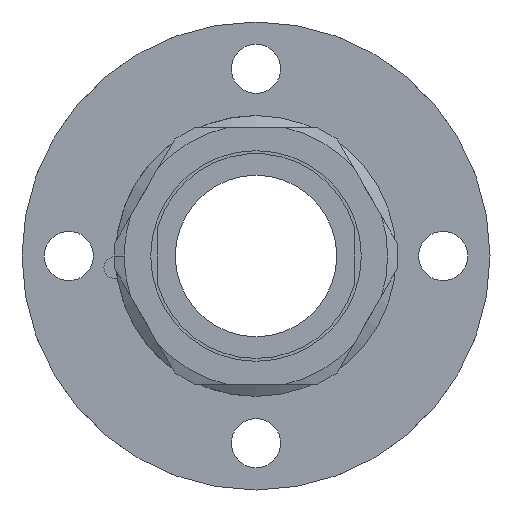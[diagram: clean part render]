
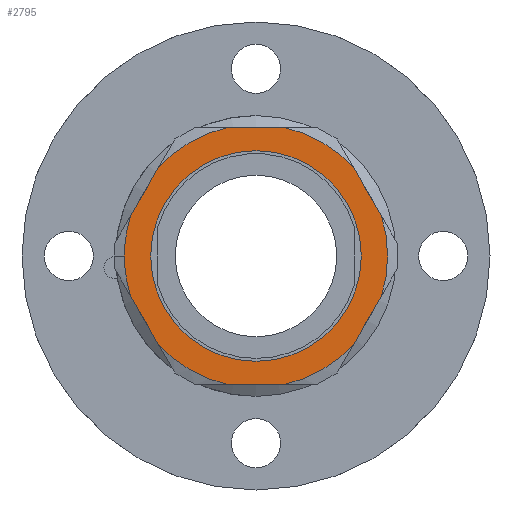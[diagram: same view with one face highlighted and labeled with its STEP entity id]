
A CAD part, front view. The second image highlights one B-rep face of the part: STEP entity #2795.
In plain terms, the highlighted planar face has unit normal (0, -1, 0).
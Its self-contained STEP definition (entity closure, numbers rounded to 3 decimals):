
#13 = EDGE_CURVE ( 'NONE', #2442, #2801, #1517, .T. ) ;
#15 = PLANE ( 'NONE',  #2384 ) ;
#76 = CARTESIAN_POINT ( 'NONE',  ( -2.358, -7.5, -11. ) ) ;
#122 = DIRECTION ( 'NONE',  ( 0., -1., 0. ) ) ;
#150 = ORIENTED_EDGE ( 'NONE', *, *, #694, .T. ) ;
#159 = DIRECTION ( 'NONE',  ( 1., 0., 0. ) ) ;
#175 = VERTEX_POINT ( 'NONE', #402 ) ;
#271 = ORIENTED_EDGE ( 'NONE', *, *, #2586, .T. ) ;
#293 = CARTESIAN_POINT ( 'NONE',  ( 10.706, -7.5, -3.457 ) ) ;
#295 = ORIENTED_EDGE ( 'NONE', *, *, #3715, .T. ) ;
#298 = EDGE_CURVE ( 'NONE', #1093, #3557, #1653, .T. ) ;
#307 = FACE_BOUND ( 'NONE', #370, .T. ) ;
#317 = EDGE_CURVE ( 'NONE', #3507, #2312, #3714, .T. ) ;
#370 = EDGE_LOOP ( 'NONE', ( #1726, #1713 ) ) ;
#377 = CARTESIAN_POINT ( 'NONE',  ( -11.25, -7.5, 0. ) ) ;
#382 = EDGE_CURVE ( 'NONE', #3196, #2061, #852, .T. ) ;
#402 = CARTESIAN_POINT ( 'NONE',  ( 8.347, -7.5, -7.543 ) ) ;
#432 = CARTESIAN_POINT ( 'NONE',  ( -6.351, -7.5, -11. ) ) ;
#459 = CARTESIAN_POINT ( 'NONE',  ( 2.358, -7.5, 11. ) ) ;
#506 = DIRECTION ( 'NONE',  ( 1., 0., 0. ) ) ;
#563 = DIRECTION ( 'NONE',  ( 1., 0., 0. ) ) ;
#593 = AXIS2_PLACEMENT_3D ( 'NONE', #3561, #2074, #159 ) ;
#621 = ORIENTED_EDGE ( 'NONE', *, *, #317, .T. ) ;
#625 = CARTESIAN_POINT ( 'NONE',  ( -2.358, -7.5, 11. ) ) ;
#694 = EDGE_CURVE ( 'NONE', #2312, #3196, #2315, .T. ) ;
#697 = CARTESIAN_POINT ( 'NONE',  ( -6.351, -7.5, 11. ) ) ;
#753 = DIRECTION ( 'NONE',  ( 1., 0., 0. ) ) ;
#797 = DIRECTION ( 'NONE',  ( 1., 0., 0. ) ) ;
#852 = LINE ( 'NONE', #3410, #3891 ) ;
#870 = CIRCLE ( 'NONE', #2047, 11.25 ) ;
#941 = DIRECTION ( 'NONE',  ( -0.5, 0., -0.866 ) ) ;
#947 = CARTESIAN_POINT ( 'NONE',  ( 10.706, -7.5, 3.457 ) ) ;
#948 = EDGE_CURVE ( 'NONE', #3154, #2277, #3613, .T. ) ;
#996 = VECTOR ( 'NONE', #753, 1000. ) ;
#1014 = EDGE_CURVE ( 'NONE', #3011, #3507, #1112, .T. ) ;
#1021 = AXIS2_PLACEMENT_3D ( 'NONE', #1045, #3615, #797 ) ;
#1045 = CARTESIAN_POINT ( 'NONE',  ( 0., -7.5, 0. ) ) ;
#1061 = AXIS2_PLACEMENT_3D ( 'NONE', #3385, #1156, #563 ) ;
#1093 = VERTEX_POINT ( 'NONE', #2487 ) ;
#1112 = CIRCLE ( 'NONE', #3420, 11.25 ) ;
#1127 = DIRECTION ( 'NONE',  ( 1., 0., 0. ) ) ;
#1156 = DIRECTION ( 'NONE',  ( 0., -1., 0. ) ) ;
#1167 = CARTESIAN_POINT ( 'NONE',  ( -10.706, -7.5, -3.457 ) ) ;
#1235 = ORIENTED_EDGE ( 'NONE', *, *, #1014, .T. ) ;
#1266 = ORIENTED_EDGE ( 'NONE', *, *, #3984, .T. ) ;
#1288 = ORIENTED_EDGE ( 'NONE', *, *, #1733, .T. ) ;
#1364 = DIRECTION ( 'NONE',  ( 0.5, 0., -0.866 ) ) ;
#1517 = CIRCLE ( 'NONE', #1848, 11.25 ) ;
#1519 = DIRECTION ( 'NONE',  ( 0., -1., 0. ) ) ;
#1523 = CIRCLE ( 'NONE', #2920, 9. ) ;
#1558 = LINE ( 'NONE', #2194, #1587 ) ;
#1561 = FACE_OUTER_BOUND ( 'NONE', #1835, .T. ) ;
#1577 = LINE ( 'NONE', #697, #2939 ) ;
#1587 = VECTOR ( 'NONE', #1364, 1000. ) ;
#1601 = CARTESIAN_POINT ( 'NONE',  ( -8.347, -7.5, 7.543 ) ) ;
#1653 = CIRCLE ( 'NONE', #2695, 9. ) ;
#1708 = CARTESIAN_POINT ( 'NONE',  ( 0., -7.5, 0. ) ) ;
#1713 = ORIENTED_EDGE ( 'NONE', *, *, #2406, .F. ) ;
#1726 = ORIENTED_EDGE ( 'NONE', *, *, #298, .F. ) ;
#1733 = EDGE_CURVE ( 'NONE', #3409, #2442, #1558, .T. ) ;
#1748 = DIRECTION ( 'NONE',  ( 0., -1., 0. ) ) ;
#1806 = CARTESIAN_POINT ( 'NONE',  ( 0., -7.5, 0. ) ) ;
#1810 = EDGE_CURVE ( 'NONE', #2801, #2163, #2353, .T. ) ;
#1835 = EDGE_LOOP ( 'NONE', ( #621, #150, #1969, #295, #1266, #2390, #271, #1288, #1861, #2665, #1889, #3864, #1235 ) ) ;
#1848 = AXIS2_PLACEMENT_3D ( 'NONE', #3626, #3920, #506 ) ;
#1861 = ORIENTED_EDGE ( 'NONE', *, *, #13, .T. ) ;
#1889 = ORIENTED_EDGE ( 'NONE', *, *, #2183, .T. ) ;
#1969 = ORIENTED_EDGE ( 'NONE', *, *, #382, .T. ) ;
#2003 = DIRECTION ( 'NONE',  ( 0.5, 0., 0.866 ) ) ;
#2016 = DIRECTION ( 'NONE',  ( 0., 0., -1. ) ) ;
#2047 = AXIS2_PLACEMENT_3D ( 'NONE', #2137, #1519, #1127 ) ;
#2052 = CIRCLE ( 'NONE', #2583, 11.25 ) ;
#2061 = VERTEX_POINT ( 'NONE', #625 ) ;
#2074 = DIRECTION ( 'NONE',  ( 0., -1., 0. ) ) ;
#2136 = CIRCLE ( 'NONE', #1021, 11.25 ) ;
#2137 = CARTESIAN_POINT ( 'NONE',  ( 0., -7.5, 0. ) ) ;
#2147 = DIRECTION ( 'NONE',  ( -0.5, 0., 0.866 ) ) ;
#2163 = VERTEX_POINT ( 'NONE', #2718 ) ;
#2183 = EDGE_CURVE ( 'NONE', #2163, #175, #870, .T. ) ;
#2194 = CARTESIAN_POINT ( 'NONE',  ( -12.702, -7.5, 0. ) ) ;
#2226 = CARTESIAN_POINT ( 'NONE',  ( -10.706, -7.5, 3.457 ) ) ;
#2277 = VERTEX_POINT ( 'NONE', #377 ) ;
#2312 = VERTEX_POINT ( 'NONE', #3155 ) ;
#2315 = CIRCLE ( 'NONE', #1061, 11.25 ) ;
#2332 = CARTESIAN_POINT ( 'NONE',  ( 6.351, -7.5, -11. ) ) ;
#2353 = LINE ( 'NONE', #432, #996 ) ;
#2361 = CARTESIAN_POINT ( 'NONE',  ( 0., -7.5, 0. ) ) ;
#2384 = AXIS2_PLACEMENT_3D ( 'NONE', #4070, #3497, #3762 ) ;
#2390 = ORIENTED_EDGE ( 'NONE', *, *, #948, .T. ) ;
#2406 = EDGE_CURVE ( 'NONE', #3557, #1093, #1523, .T. ) ;
#2442 = VERTEX_POINT ( 'NONE', #3275 ) ;
#2487 = CARTESIAN_POINT ( 'NONE',  ( 0., -7.5, -9. ) ) ;
#2583 = AXIS2_PLACEMENT_3D ( 'NONE', #3329, #1748, #3005 ) ;
#2586 = EDGE_CURVE ( 'NONE', #2277, #3409, #2052, .T. ) ;
#2665 = ORIENTED_EDGE ( 'NONE', *, *, #1810, .T. ) ;
#2695 = AXIS2_PLACEMENT_3D ( 'NONE', #1806, #3062, #2730 ) ;
#2700 = VERTEX_POINT ( 'NONE', #1601 ) ;
#2718 = CARTESIAN_POINT ( 'NONE',  ( 2.358, -7.5, -11. ) ) ;
#2730 = DIRECTION ( 'NONE',  ( 0., 0., -1. ) ) ;
#2786 = VECTOR ( 'NONE', #2003, 1000. ) ;
#2795 = ADVANCED_FACE ( 'NONE', ( #307, #1561 ), #15, .T. ) ;
#2801 = VERTEX_POINT ( 'NONE', #76 ) ;
#2850 = CARTESIAN_POINT ( 'NONE',  ( 0., -7.5, 9. ) ) ;
#2920 = AXIS2_PLACEMENT_3D ( 'NONE', #2361, #3888, #2016 ) ;
#2939 = VECTOR ( 'NONE', #941, 1000. ) ;
#3005 = DIRECTION ( 'NONE',  ( 1., 0., 0. ) ) ;
#3011 = VERTEX_POINT ( 'NONE', #293 ) ;
#3062 = DIRECTION ( 'NONE',  ( 0., -1., 0. ) ) ;
#3082 = CARTESIAN_POINT ( 'NONE',  ( 12.702, -7.5, 0. ) ) ;
#3154 = VERTEX_POINT ( 'NONE', #2226 ) ;
#3155 = CARTESIAN_POINT ( 'NONE',  ( 8.347, -7.5, 7.543 ) ) ;
#3196 = VERTEX_POINT ( 'NONE', #459 ) ;
#3223 = EDGE_CURVE ( 'NONE', #175, #3011, #3567, .T. ) ;
#3275 = CARTESIAN_POINT ( 'NONE',  ( -8.347, -7.5, -7.543 ) ) ;
#3329 = CARTESIAN_POINT ( 'NONE',  ( 0., -7.5, 0. ) ) ;
#3367 = DIRECTION ( 'NONE',  ( -1., 0., 0. ) ) ;
#3385 = CARTESIAN_POINT ( 'NONE',  ( 0., -7.5, 0. ) ) ;
#3409 = VERTEX_POINT ( 'NONE', #1167 ) ;
#3410 = CARTESIAN_POINT ( 'NONE',  ( 6.351, -7.5, 11. ) ) ;
#3420 = AXIS2_PLACEMENT_3D ( 'NONE', #1708, #122, #3926 ) ;
#3497 = DIRECTION ( 'NONE',  ( 0., -1., 0. ) ) ;
#3507 = VERTEX_POINT ( 'NONE', #947 ) ;
#3557 = VERTEX_POINT ( 'NONE', #2850 ) ;
#3561 = CARTESIAN_POINT ( 'NONE',  ( 0., -7.5, 0. ) ) ;
#3567 = LINE ( 'NONE', #2332, #2786 ) ;
#3613 = CIRCLE ( 'NONE', #593, 11.25 ) ;
#3615 = DIRECTION ( 'NONE',  ( 0., -1., 0. ) ) ;
#3626 = CARTESIAN_POINT ( 'NONE',  ( 0., -7.5, 0. ) ) ;
#3714 = LINE ( 'NONE', #3082, #3752 ) ;
#3715 = EDGE_CURVE ( 'NONE', #2061, #2700, #2136, .T. ) ;
#3752 = VECTOR ( 'NONE', #2147, 1000. ) ;
#3762 = DIRECTION ( 'NONE',  ( 1., 0., 0. ) ) ;
#3864 = ORIENTED_EDGE ( 'NONE', *, *, #3223, .T. ) ;
#3888 = DIRECTION ( 'NONE',  ( 0., -1., 0. ) ) ;
#3891 = VECTOR ( 'NONE', #3367, 1000. ) ;
#3920 = DIRECTION ( 'NONE',  ( 0., -1., 0. ) ) ;
#3926 = DIRECTION ( 'NONE',  ( 1., 0., 0. ) ) ;
#3984 = EDGE_CURVE ( 'NONE', #2700, #3154, #1577, .T. ) ;
#4070 = CARTESIAN_POINT ( 'NONE',  ( 0., -7.5, 0. ) ) ;
